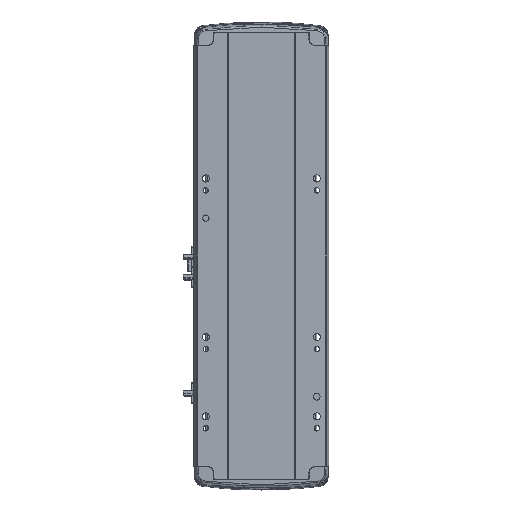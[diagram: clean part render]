
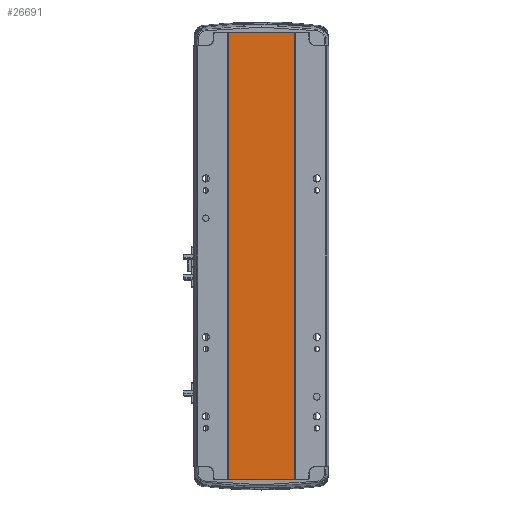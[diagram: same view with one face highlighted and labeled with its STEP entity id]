
A CAD part, front view. The second image highlights one B-rep face of the part: STEP entity #26691.
In plain terms, the highlighted planar face has unit normal (0, -1, 0).
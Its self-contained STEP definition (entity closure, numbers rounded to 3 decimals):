
#169 = ORIENTED_EDGE ( 'NONE', *, *, #34635, .T. ) ;
#278 = VERTEX_POINT ( 'NONE', #7919 ) ;
#710 = ORIENTED_EDGE ( 'NONE', *, *, #6533, .F. ) ;
#1181 = CARTESIAN_POINT ( 'NONE',  ( 41.793, 0.998, 0. ) ) ;
#6533 = EDGE_CURVE ( 'NONE', #16418, #23185, #32775, .T. ) ;
#7350 = CARTESIAN_POINT ( 'NONE',  ( 0., 0.999, 0. ) ) ;
#7459 = ORIENTED_EDGE ( 'NONE', *, *, #33826, .T. ) ;
#7919 = CARTESIAN_POINT ( 'NONE',  ( -41.791, 1., 0. ) ) ;
#11957 = LINE ( 'NONE', #24569, #24192 ) ;
#12696 = EDGE_LOOP ( 'NONE', ( #7459, #24022, #710, #169 ) ) ;
#13073 = DIRECTION ( 'NONE',  ( 1., 0., 0. ) ) ;
#13424 = VECTOR ( 'NONE', #13073, 1000. ) ;
#14881 = EDGE_CURVE ( 'NONE', #23185, #19698, #11957, .T. ) ;
#15040 = LINE ( 'NONE', #7350, #30146 ) ;
#15901 = FACE_OUTER_BOUND ( 'NONE', #12696, .T. ) ;
#16418 = VERTEX_POINT ( 'NONE', #37740 ) ;
#18566 = CARTESIAN_POINT ( 'NONE',  ( -41.791, 1., 564.5 ) ) ;
#19698 = VERTEX_POINT ( 'NONE', #1181 ) ;
#20656 = CARTESIAN_POINT ( 'NONE',  ( 41.793, 0.998, 564.5 ) ) ;
#20668 = DIRECTION ( 'NONE',  ( -1., 0., 0. ) ) ;
#20911 = DIRECTION ( 'NONE',  ( 0., 1., 0. ) ) ;
#21319 = DIRECTION ( 'NONE',  ( 0., 0., -1. ) ) ;
#23185 = VERTEX_POINT ( 'NONE', #20656 ) ;
#23564 = PLANE ( 'NONE',  #25430 ) ;
#24022 = ORIENTED_EDGE ( 'NONE', *, *, #14881, .F. ) ;
#24192 = VECTOR ( 'NONE', #35109, 1000. ) ;
#24404 = VECTOR ( 'NONE', #21319, 1000. ) ;
#24569 = CARTESIAN_POINT ( 'NONE',  ( 41.793, 0.998, 564.5 ) ) ;
#25430 = AXIS2_PLACEMENT_3D ( 'NONE', #32829, #20911, #20668 ) ;
#26294 = LINE ( 'NONE', #18566, #24404 ) ;
#26691 = ADVANCED_FACE ( 'NONE', ( #15901 ), #23564, .F. ) ;
#30146 = VECTOR ( 'NONE', #37808, 1000. ) ;
#32775 = LINE ( 'NONE', #36719, #13424 ) ;
#32829 = CARTESIAN_POINT ( 'NONE',  ( 0., 0.999, 564.5 ) ) ;
#33826 = EDGE_CURVE ( 'NONE', #278, #19698, #15040, .T. ) ;
#34635 = EDGE_CURVE ( 'NONE', #16418, #278, #26294, .T. ) ;
#35109 = DIRECTION ( 'NONE',  ( 0., 0., -1. ) ) ;
#36719 = CARTESIAN_POINT ( 'NONE',  ( 0., 0.999, 564.5 ) ) ;
#37740 = CARTESIAN_POINT ( 'NONE',  ( -41.791, 1., 564.5 ) ) ;
#37808 = DIRECTION ( 'NONE',  ( 1., 0., 0. ) ) ;
